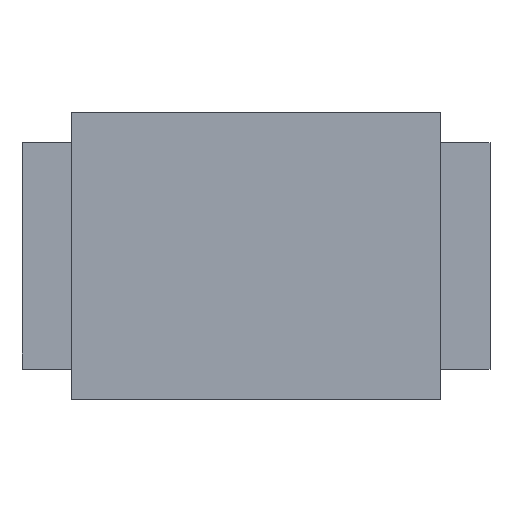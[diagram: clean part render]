
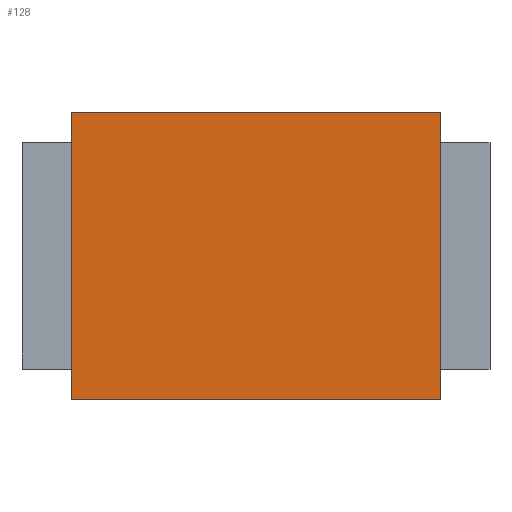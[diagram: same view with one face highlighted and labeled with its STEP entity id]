
A CAD part, top view. The second image highlights one B-rep face of the part: STEP entity #128.
In plain terms, the highlighted planar face has unit normal (0, 0, 1).
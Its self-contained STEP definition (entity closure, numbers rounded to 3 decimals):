
#128=ADVANCED_FACE('',(#422),#424,.T.);
#422=FACE_BOUND('',#423,.T.);
#423=EDGE_LOOP('',(#832,#833,#834,#835));
#424=PLANE('',#425);
#425=AXIS2_PLACEMENT_3D('',#426,#427,#428);
#426=CARTESIAN_POINT('',(0.,0.,0.925));
#427=DIRECTION('',(0.,0.,1.));
#428=DIRECTION('',(-1.,0.,0.));
#832=ORIENTED_EDGE('',*,*,#1131,.T.);
#833=ORIENTED_EDGE('',*,*,#1137,.T.);
#834=ORIENTED_EDGE('',*,*,#1123,.T.);
#835=ORIENTED_EDGE('',*,*,#1138,.T.);
#1123=EDGE_CURVE('',#1312,#1310,#1313,.F.);
#1131=EDGE_CURVE('',#1328,#1326,#1329,.F.);
#1137=EDGE_CURVE('',#1326,#1312,#1339,.T.);
#1138=EDGE_CURVE('',#1310,#1328,#1340,.T.);
#1310=VERTEX_POINT('',#1503);
#1312=VERTEX_POINT('',#1507);
#1313=LINE('',#1508,#1509);
#1326=VERTEX_POINT('',#1535);
#1328=VERTEX_POINT('',#1539);
#1329=LINE('',#1540,#1541);
#1339=LINE('',#1562,#1563);
#1340=LINE('',#1565,#1566);
#1503=CARTESIAN_POINT('',(-1.448,-1.13,0.925));
#1507=CARTESIAN_POINT('',(-1.448,1.13,0.925));
#1508=CARTESIAN_POINT('',(-1.448,-1.13,0.925));
#1509=VECTOR('',#1510,1.);
#1510=DIRECTION('',(0.,1.,0.));
#1535=CARTESIAN_POINT('',(1.448,1.13,0.925));
#1539=CARTESIAN_POINT('',(1.448,-1.13,0.925));
#1540=CARTESIAN_POINT('',(1.448,1.13,0.925));
#1541=VECTOR('',#1542,1.);
#1542=DIRECTION('',(0.,-1.,0.));
#1562=CARTESIAN_POINT('',(1.448,1.13,0.925));
#1563=VECTOR('',#1564,1.);
#1564=DIRECTION('',(-1.,0.,0.));
#1565=CARTESIAN_POINT('',(-1.448,-1.13,0.925));
#1566=VECTOR('',#1567,1.);
#1567=DIRECTION('',(1.,0.,0.));
